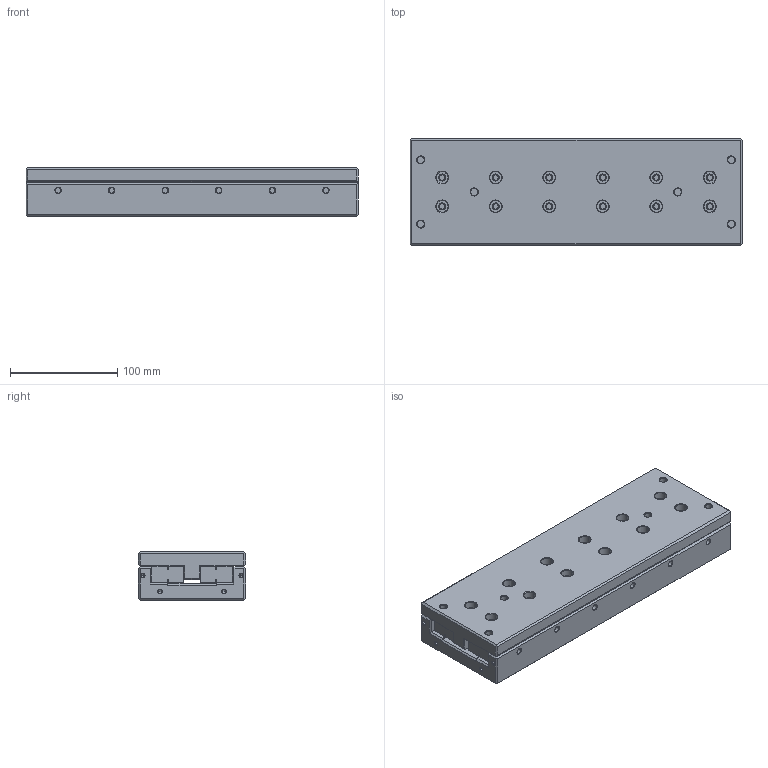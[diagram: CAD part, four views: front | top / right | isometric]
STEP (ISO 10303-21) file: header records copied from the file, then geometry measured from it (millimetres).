
FILE_DESCRIPTION((''),'2;1');
FILE_NAME('CRU6310_ASM','2017-01-24T',('Administrator'),(''),'PRO/ENGINEER BY PARAMETRIC TECHNOLOGY CORPORATION, 2013150','PRO/ENGINEER BY PARAMETRIC TECHNOLOGY CORPORATION, 2013150','');
FILE_SCHEMA(('CONFIG_CONTROL_DESIGN'));
Length unit declared in the file: millimetre
Products named in the file (4): CRU6310-01; CRU6310-GV6300; CRU6310-02; CRU6310_ASM
Assembly tree (4 placements, depth 2):
  CRU6310_ASM
    CRU6310-01
    CRU6310-GV6300  x2
    CRU6310-02
Bounding box: 310 x 100 x 45 mm (x, y, z)
Volume: 1270217.8 mm3; surface area: 260136.9 mm2
Topology: 4 solids, 4 shells, 674 faces, 1624 edges, 994 vertices
Faces by surface type: cylinder 272, cone 226, plane 176
Entity records: 17198 total; most frequent: DIRECTION 3215, CARTESIAN_POINT 2853, ORIENTED_EDGE 2776, EDGE_CURVE 1388, AXIS2_PLACEMENT_3D 1243, VERTEX_POINT 854, EDGE_LOOP 744, VECTOR 729
